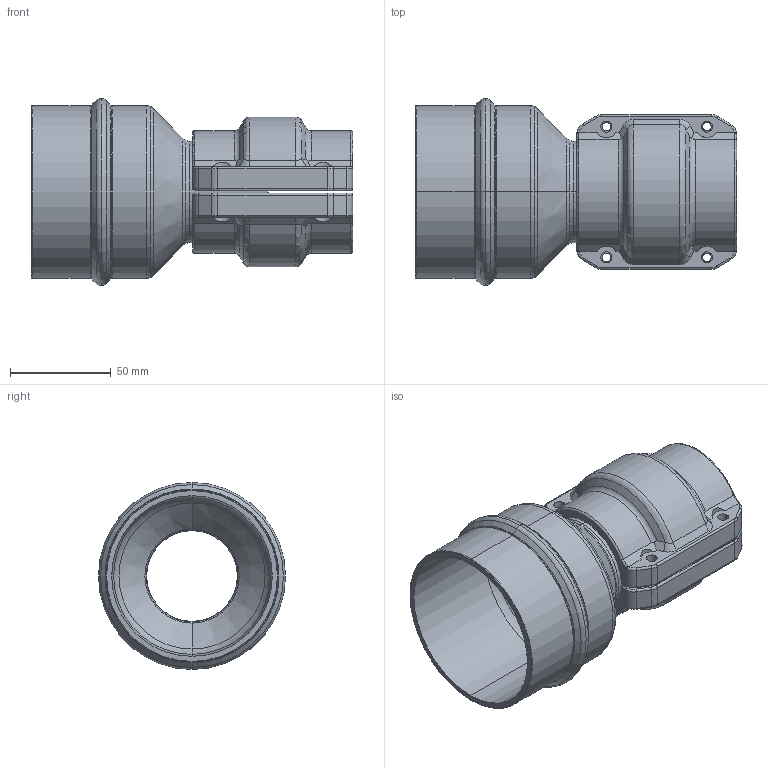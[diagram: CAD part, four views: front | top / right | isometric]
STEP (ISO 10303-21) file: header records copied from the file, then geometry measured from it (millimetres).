
FILE_DESCRIPTION((''),'2;1');
FILE_NAME('2015752199_ASM','2017-05-12T',('Administrator'),(''),'PRO/ENGINEER BY PARAMETRIC TECHNOLOGY CORPORATION, 2009360','PRO/ENGINEER BY PARAMETRIC TECHNOLOGY CORPORATION, 2009360','');
FILE_SCHEMA(('AUTOMOTIVE_DESIGN_CC2 { 1 2 10303 214 -1 1 5 2 }'));
Length unit declared in the file: millimetre
Products named in the file (5): 2015752100; 201550020001; 201550020000; 2015500200_ASM; 2015752199_ASM
Assembly tree (4 placements, depth 3):
  2015752199_ASM
    2015752100
    2015500200_ASM
      201550020001
      201550020000
Bounding box: 159.7 x 92.95 x 92.95 mm (x, y, z)
Volume: 228636.3 mm3; surface area: 92890 mm2
Topology: 3 solids, 3 shells, 268 faces, 652 edges, 390 vertices
Faces by surface type: cylinder 102, torus 84, plane 38, bspline 24, cone 12, sphere 8
Entity records: 10922 total; most frequent: CARTESIAN_POINT 2558, DIRECTION 1396, ORIENTED_EDGE 1304, PRESENTATION_STYLE_ASSIGNMENT 655, STYLED_ITEM 655, CURVE_STYLE 652, EDGE_CURVE 652, AXIS2_PLACEMENT_3D 597
